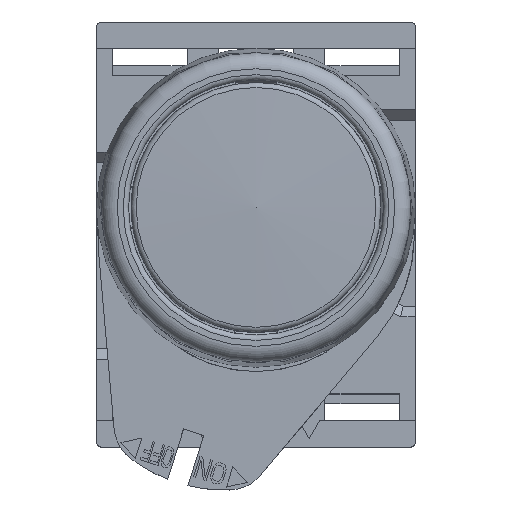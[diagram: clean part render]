
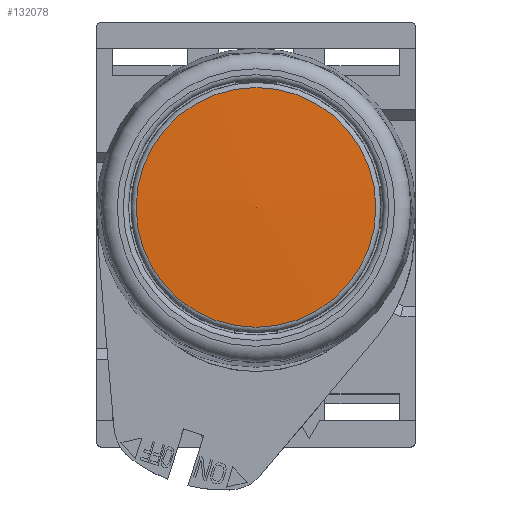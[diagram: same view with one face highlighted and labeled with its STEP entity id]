
A CAD part, top view. The second image highlights one B-rep face of the part: STEP entity #132078.
In plain terms, the highlighted spherical face has radius 172.778 mm.
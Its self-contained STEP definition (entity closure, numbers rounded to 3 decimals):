
#65=SPHERICAL_SURFACE('',#227606,172.778);
#73751=FACE_OUTER_BOUND('',#143430,.T.);
#132078=ADVANCED_FACE('',(#73751),#65,.T.);
#143430=EDGE_LOOP('',(#156856));
#156856=ORIENTED_EDGE('',*,*,#206215,.F.);
#196261=VERTEX_POINT('',#287985);
#206215=EDGE_CURVE('',#196261,#196261,#225773,.T.);
#225773=CIRCLE('',#227605,11.283);
#227605=AXIS2_PLACEMENT_3D('',#287984,#241916,#241917);
#227606=AXIS2_PLACEMENT_3D('',#287986,#241918,#241919);
#241916=DIRECTION('',(0.,0.,-1.));
#241917=DIRECTION('',(1.,0.,0.));
#241918=DIRECTION('',(0.,0.,-1.));
#241919=DIRECTION('',(1.,0.,0.));
#287984=CARTESIAN_POINT('',(0.,0.75,18.581));
#287985=CARTESIAN_POINT('',(11.283,0.75,18.581));
#287986=CARTESIAN_POINT('',(0.,0.75,-153.828));
